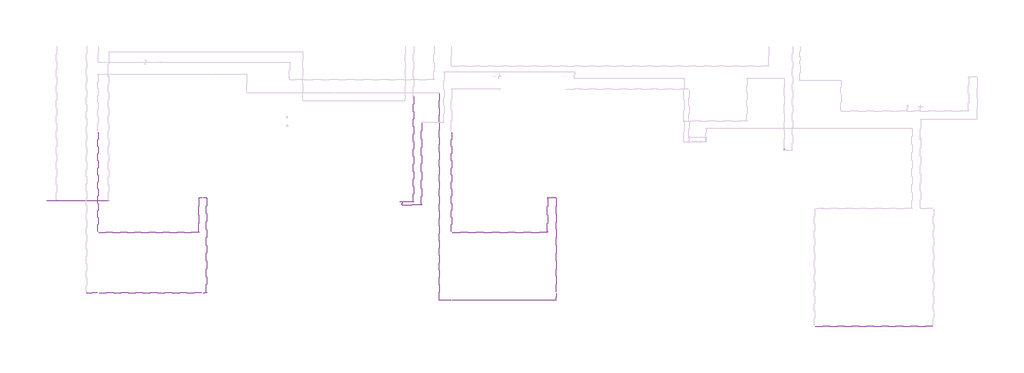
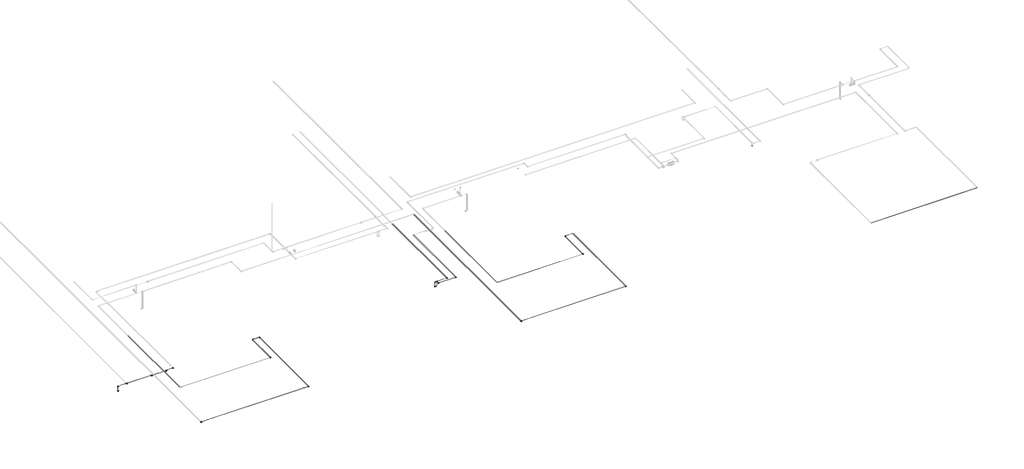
# One storey, part 1 of 6: 36 cable carrier segments, 22 cable carrier fittings, 1 alarm.
"""IFC4 building model written with IfcOpenShell, lengths in millimetres."""

from ifc_helpers import new_model, si_unit, point, frame, frame_2d, origin, place, context, project, spatial, circle_curve, trimmed, segment, composite_curve, outline, extrude, transform, mapped, element, save
from ifc_brep_helpers import plane_surface, cylinder_surface, advanced_brep
from components import alarm_a2247946, cable_carrier_fitting_69f1a801, cable_carrier_fitting_8122f9af, cable_carrier_fitting_8fd13dfc

model = new_model("IFC4")

# Units and contexts
model_context = context("Model", 3, world=origin())
ifc_project = project(units=[si_unit("LENGTHUNIT", "METRE", prefix="MILLI")], contexts=[model_context])

# Site, building, storey
site = spatial("IfcSite", under=ifc_project)
building = spatial("IfcBuilding", under=site)
storey = spatial("IfcBuildingStorey", under=building, Name="Подвальный этаж", Elevation=-3000.0)

# Alarm
placement = place(None, origin())
alarm_shape = alarm_a2247946(model_context)
element("IfcAlarm", 1, ObjectType="RBZ_ИзоляторШлейфа_Рубеж_ИЗ-1_прот.R3(плоскость) : ИЗ-1 прот.R3", at=placement, inside=storey, context=model_context, shape_type="MappedRepresentation", body=[
    mapped(alarm_shape, transform((-13842.3240021, -9395.3629895, -299.95), x_axis=(1.0, 0.0, 0.0), y_axis=(0.0, 1.0, 0.0), z_axis=(0.0, 0.0, 1.0))),
])

# Cable carrier fittings
cable_carrier_fitting_shape = cable_carrier_fitting_69f1a801(model_context)
element("IfcCableCarrierFitting", 2, ObjectType="ADSK_Поворот_Минимальный размер : Неспецифицируемый", at=placement, inside=storey, context=model_context, shape_type="MappedRepresentation", body=[
    mapped(cable_carrier_fitting_shape, transform((-7218.8240021, -3105.3629895, -310.7), x_axis=(-1.0, 0.0, 0.0), y_axis=(0.0, -1.0, 0.0), z_axis=(0.0, 0.0, 1.0))),
])
element("IfcCableCarrierFitting", 3, ObjectType="ADSK_Поворот_Минимальный размер : Неспецифицируемый", at=placement, inside=storey, context=model_context, shape_type="MappedRepresentation", body=[
    mapped(cable_carrier_fitting_shape, transform((-6672.3240021, -9395.3629895, -310.7), x_axis=(1.0, 0.0, 0.0), y_axis=(0.0, 1.0, 0.0), z_axis=(0.0, 0.0, 1.0))),
])
element("IfcCableCarrierFitting", 4, ObjectType="ADSK_Поворот_Минимальный размер : Неспецифицируемый", at=placement, inside=storey, context=model_context, shape_type="MappedRepresentation", body=[
    mapped(cable_carrier_fitting_shape, transform((-7218.8240021, -5237.8003421, -310.7), x_axis=(1.0, 0.0, 0.0), y_axis=(0.0, 1.0, 0.0), z_axis=(0.0, 0.0, 1.0))),
])
element("IfcCableCarrierFitting", 5, ObjectType="ADSK_Поворот_Минимальный размер : Неспецифицируемый", at=placement, inside=storey, context=model_context, shape_type="MappedRepresentation", body=[
    mapped(cable_carrier_fitting_shape, transform((-28574.8240021, -5237.8003421, -310.7), x_axis=(1.0, 0.0, 0.0), y_axis=(0.0, 1.0, 0.0), z_axis=(0.0, 0.0, 1.0))),
])
element("IfcCableCarrierFitting", 6, ObjectType="ADSK_Поворот_Минимальный размер : Неспецифицируемый", at=placement, inside=storey, context=model_context, shape_type="MappedRepresentation", body=[
    mapped(cable_carrier_fitting_shape, transform((-28574.8240021, -3105.3629895, -310.7), x_axis=(-1.0, 0.0, 0.0), y_axis=(0.0, -1.0, 0.0), z_axis=(0.0, 0.0, 1.0))),
])
element("IfcCableCarrierFitting", 7, ObjectType="ADSK_Поворот_Минимальный размер : Неспецифицируемый", at=placement, inside=storey, context=model_context, shape_type="MappedRepresentation", body=[
    mapped(cable_carrier_fitting_shape, transform((-28102.3240021, -3105.3629895, -310.7), x_axis=(0.0, 1.0, 0.0), y_axis=(-1.0, 0.0, 0.0), z_axis=(0.0, 0.0, 1.0))),
])
element("IfcCableCarrierFitting", 8, ObjectType="ADSK_Поворот_Минимальный размер : Неспецифицируемый", at=placement, inside=storey, context=model_context, shape_type="MappedRepresentation", body=[
    mapped(cable_carrier_fitting_shape, transform((-28102.3240021, -8945.3629895, -310.7), x_axis=(1.0, 0.0, 0.0), y_axis=(0.0, 1.0, 0.0), z_axis=(0.0, 0.0, 1.0))),
])
element("IfcCableCarrierFitting", 9, ObjectType="ADSK_Поворот_Минимальный размер : Неспецифицируемый", at=placement, inside=storey, context=model_context, shape_type="MappedRepresentation", body=[
    mapped(cable_carrier_fitting_shape, transform((-35461.3240021, -8945.3629895, -310.6999979), x_axis=(0.0, -1.0, 0.0), y_axis=(1.0, 0.0, 0.0), z_axis=(0.0, 0.0, 1.0))),
])
element("IfcCableCarrierFitting", 10, ObjectType="ADSK_Поворот_Минимальный размер : Неспецифицируемый", at=placement, inside=storey, context=model_context, shape_type="MappedRepresentation", body=[
    mapped(cable_carrier_fitting_shape, transform((-37889.5238077, -3292.8629895, -655.9740066), x_axis=(-1.0, 0.0, 0.0), y_axis=(0.0, 0.0, 1.0), z_axis=(0.0, 1.0, 0.0))),
])
element("IfcCableCarrierFitting", 11, ObjectType="ADSK_Поворот_Минимальный размер : Неспецифицируемый", at=placement, inside=storey, context=model_context, shape_type="MappedRepresentation", body=[
    mapped(cable_carrier_fitting_shape, transform((-37889.5238077, -3292.8629895, -310.7), x_axis=(0.0, 0.0, 1.0), y_axis=(1.0, 0.0, 0.0), z_axis=(0.0, 1.0, 0.0))),
])
element("IfcCableCarrierFitting", 12, ObjectType="ADSK_Поворот_Минимальный размер : Неспецифицируемый", at=placement, inside=storey, context=model_context, shape_type="MappedRepresentation", body=[
    mapped(cable_carrier_fitting_shape, transform((-34102.3240021, -3292.8629895, -310.7), x_axis=(1.0, 0.0, 0.0), y_axis=(0.0, 1.0, 0.0), z_axis=(0.0, 0.0, 1.0))),
])
element("IfcCableCarrierFitting", 13, ObjectType="ADSK_Поворот_Минимальный размер : Неспецифицируемый", at=placement, inside=storey, context=model_context, shape_type="MappedRepresentation", body=[
    mapped(cable_carrier_fitting_shape, transform((-16121.6725748, -3355.3629895, -310.7), x_axis=(0.0, 0.0, 1.0), y_axis=(0.0, -1.0, 0.0), z_axis=(1.0, 0.0, 0.0))),
])
element("IfcCableCarrierFitting", 14, ObjectType="ADSK_Поворот_Минимальный размер : Неспецифицируемый", at=placement, inside=storey, context=model_context, shape_type="MappedRepresentation", body=[
    mapped(cable_carrier_fitting_shape, transform((-16121.6725748, -3555.3629895, -310.7), x_axis=(0.0, -1.0, 0.0), y_axis=(1.0, 0.0, 0.0), z_axis=(0.0, 0.0, 1.0))),
])
element("IfcCableCarrierFitting", 15, ObjectType="ADSK_Поворот_Минимальный размер : Неспецифицируемый", at=placement, inside=storey, context=model_context, shape_type="MappedRepresentation", body=[
    mapped(cable_carrier_fitting_shape, transform((-14921.6240021, -3555.3629895, -310.7), x_axis=(1.0, 0.0, 0.0), y_axis=(0.0, 1.0, 0.0), z_axis=(0.0, 0.0, 1.0))),
])
element("IfcCableCarrierFitting", 16, ObjectType="ADSK_Поворот_Минимальный размер : Неспецифицируемый", at=placement, inside=storey, context=model_context, shape_type="MappedRepresentation", body=[
    mapped(cable_carrier_fitting_shape, transform((-16249.5238077, -3355.3629895, -655.9740066), x_axis=(-1.0, 0.0, 0.0), y_axis=(0.0, 0.0, 1.0), z_axis=(0.0, 1.0, 0.0))),
])
element("IfcCableCarrierFitting", 17, ObjectType="ADSK_Поворот_Минимальный размер : Неспецифицируемый", at=placement, inside=storey, context=model_context, shape_type="MappedRepresentation", body=[
    mapped(cable_carrier_fitting_shape, transform((-16249.5238077, -3355.3629895, -310.7), x_axis=(0.0, 0.0, 1.0), y_axis=(1.0, 0.0, 0.0), z_axis=(0.0, 1.0, 0.0))),
])
element("IfcCableCarrierFitting", 18, ObjectType="ADSK_Поворот_Минимальный размер : Неспецифицируемый", at=placement, inside=storey, context=model_context, shape_type="MappedRepresentation", body=[
    mapped(cable_carrier_fitting_shape, transform((-15421.6240021, -3355.3629895, -310.7), x_axis=(1.0, 0.0, 0.0), y_axis=(0.0, 1.0, 0.0), z_axis=(0.0, 0.0, 1.0))),
])
cable_carrier_fitting_2_shape = cable_carrier_fitting_8122f9af(model_context)
element("IfcCableCarrierFitting", 19, ObjectType="ADSK_Поворот_Минимальный размер : Неспецифицируемый", at=placement, inside=storey, context=model_context, shape_type="MappedRepresentation", body=[
    mapped(cable_carrier_fitting_2_shape, transform((-35602.3240021, -3292.8629895, -310.7), x_axis=(1.0, 0.0, 0.0), y_axis=(0.0, 0.0, -1.0), z_axis=(0.0, 1.0, 0.0))),
])
element("IfcCableCarrierFitting", 20, ObjectType="ADSK_Поворот_Минимальный размер : Неспецифицируемый", at=placement, inside=storey, context=model_context, shape_type="MappedRepresentation", body=[
    mapped(cable_carrier_fitting_2_shape, transform((-35563.0240021, -3292.8629895, -350.0), x_axis=(0.7071067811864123, 0.0, -0.7071067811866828), y_axis=(0.7071067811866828, 0.0, 0.7071067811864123), z_axis=(0.0, -1.0, 0.0))),
])
element("IfcCableCarrierFitting", 21, ObjectType="ADSK_Поворот_Минимальный размер : Неспецифицируемый", at=placement, inside=storey, context=model_context, shape_type="MappedRepresentation", body=[
    mapped(cable_carrier_fitting_2_shape, transform((-34602.3240021, -3292.8629895, -350.0), x_axis=(1.0, 0.0, 0.0), y_axis=(0.0, 0.0, 1.0), z_axis=(0.0, -1.0, 0.0))),
])
element("IfcCableCarrierFitting", 22, ObjectType="ADSK_Поворот_Минимальный размер : Неспецифицируемый", at=placement, inside=storey, context=model_context, shape_type="MappedRepresentation", body=[
    mapped(cable_carrier_fitting_2_shape, transform((-34563.0240021, -3292.8629895, -310.7), x_axis=(0.7071067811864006, 0.0, 0.7071067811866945), y_axis=(0.7071067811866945, 0.0, -0.7071067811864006), z_axis=(0.0, 1.0, 0.0))),
])
cable_carrier_fitting_3_shape = cable_carrier_fitting_8fd13dfc(model_context)
element("IfcCableCarrierFitting", 23, ObjectType="ADSK_Тройник : ПВХ", at=placement, inside=storey, context=model_context, shape_type="MappedRepresentation", body=[
    mapped(cable_carrier_fitting_3_shape, transform((-37292.3240021, -3292.8629895, -310.7), x_axis=(-1.0, 0.0, 0.0), y_axis=(0.0, -1.0, 0.0), z_axis=(0.0, 0.0, 1.0))),
])

# Cable carrier segments
element("IfcCableCarrierSegment", 24, ObjectType="Гофрированная труба", at=placement, inside=storey, context=model_context, shape_type="SweptSolid", body=[
    extrude(outline(composite_curve([segment(trimmed(circle_curve(frame_2d((-310.7, -34750.048085)), 10.0), [point((-310.7, -34760.048085))], [point((-320.7, -34750.048085))], False, "CARTESIAN"), True, "CONTINUOUS"), segment(trimmed(circle_curve(frame_2d((-310.7, -34750.048085)), 10.0), [point((-320.7, -34750.048085))], [point((-310.7, -34740.048085))], False, "CARTESIAN"), True, "CONTINUOUS"), segment(trimmed(circle_curve(frame_2d((-310.7, -34750.048085)), 10.0), [point((-310.7, -34740.048085))], [point((-300.7, -34750.048085))], False, "CARTESIAN"), True, "CONTINUOUS"), segment(trimmed(circle_curve(frame_2d((-310.7, -34750.048085)), 10.0), [point((-300.7, -34750.048085))], [point((-310.7, -34760.048085))], False, "CARTESIAN"), True, "CONTINUOUS")], self_intersect=False)), frame((0.0, -5191.3003421, 0.0), z_axis=(0.0, 1.0, 0.0), x_axis=(0.0, 0.0, 1.0)), (0.0, 0.0, 1.0), 6089.4373527),
])
element("IfcCableCarrierSegment", 25, ObjectType="Гофрированная труба", at=placement, inside=storey, context=model_context, shape_type="SweptSolid", body=[
    extrude(outline(composite_curve([segment(trimmed(circle_curve(frame_2d((-5237.8003421, -310.7)), 10.0), [point((-5227.8003421, -310.7))], [point((-5237.8003421, -320.7))], False, "CARTESIAN"), True, "CONTINUOUS"), segment(trimmed(circle_curve(frame_2d((-5237.8003421, -310.7)), 10.0), [point((-5237.8003421, -320.7))], [point((-5247.8003421, -310.7))], False, "CARTESIAN"), True, "CONTINUOUS"), segment(trimmed(circle_curve(frame_2d((-5237.8003421, -310.7)), 10.0), [point((-5247.8003421, -310.7))], [point((-5237.8003421, -300.7))], False, "CARTESIAN"), True, "CONTINUOUS"), segment(trimmed(circle_curve(frame_2d((-5237.8003421, -310.7)), 10.0), [point((-5237.8003421, -300.7))], [point((-5227.8003421, -310.7))], False, "CARTESIAN"), True, "CONTINUOUS")], self_intersect=False)), frame((-34703.548085, 0.0, 0.0), z_axis=(1.0, 0.0, 0.0), x_axis=(0.0, 1.0, 0.0)), (0.0, 0.0, 1.0), 6107.7240829),
])
element("IfcCableCarrierSegment", 26, ObjectType="Гофрированная труба", at=placement, inside=storey, context=model_context, shape_type="SweptSolid", body=[
    extrude(outline(composite_curve([segment(trimmed(circle_curve(frame_2d((-310.7, -28574.8240021)), 10.0), [point((-310.7, -28564.8240021))], [point((-300.7, -28574.8240021))], False, "CARTESIAN"), True, "CONTINUOUS"), segment(trimmed(circle_curve(frame_2d((-310.7, -28574.8240021)), 10.0), [point((-300.7, -28574.8240021))], [point((-310.7, -28584.8240021))], False, "CARTESIAN"), True, "CONTINUOUS"), segment(trimmed(circle_curve(frame_2d((-310.7, -28574.8240021)), 10.0), [point((-310.7, -28584.8240021))], [point((-320.7, -28574.8240021))], False, "CARTESIAN"), True, "CONTINUOUS"), segment(trimmed(circle_curve(frame_2d((-310.7, -28574.8240021)), 10.0), [point((-320.7, -28574.8240021))], [point((-310.7, -28564.8240021))], False, "CARTESIAN"), True, "CONTINUOUS")], self_intersect=False)), frame((0.0, -5216.8003421, 0.0), z_axis=(0.0, 1.0, 0.0), x_axis=(0.0, 0.0, 1.0)), (0.0, 0.0, 1.0), 2090.4373527),
])
element("IfcCableCarrierSegment", 27, ObjectType="Гофрированная труба", at=placement, inside=storey, context=model_context, shape_type="SweptSolid", body=[
    extrude(outline(composite_curve([segment(trimmed(circle_curve(frame_2d((-3105.3629895, -310.7)), 10.0), [point((-3115.3629895, -310.7))], [point((-3105.3629895, -300.7))], False, "CARTESIAN"), True, "CONTINUOUS"), segment(trimmed(circle_curve(frame_2d((-3105.3629895, -310.7)), 10.0), [point((-3105.3629895, -300.7))], [point((-3095.3629895, -310.7))], False, "CARTESIAN"), True, "CONTINUOUS"), segment(trimmed(circle_curve(frame_2d((-3105.3629895, -310.7)), 10.0), [point((-3095.3629895, -310.7))], [point((-3105.3629895, -320.7))], False, "CARTESIAN"), True, "CONTINUOUS"), segment(trimmed(circle_curve(frame_2d((-3105.3629895, -310.7)), 10.0), [point((-3105.3629895, -320.7))], [point((-3115.3629895, -310.7))], False, "CARTESIAN"), True, "CONTINUOUS")], self_intersect=False)), frame((-28553.8240021, 0.0, 0.0), z_axis=(1.0, 0.0, 0.0), x_axis=(0.0, 1.0, 0.0)), (0.0, 0.0, 1.0), 155.0),
])
element("IfcCableCarrierSegment", 28, ObjectType="Гофрированная труба", at=placement, inside=storey, context=model_context, shape_type="SweptSolid", body=[
    extrude(outline(composite_curve([segment(trimmed(circle_curve(frame_2d((-3105.3629895, -310.7)), 10.0), [point((-3095.3629895, -310.7))], [point((-3105.3629895, -320.7))], False, "CARTESIAN"), True, "CONTINUOUS"), segment(trimmed(circle_curve(frame_2d((-3105.3629895, -310.7)), 10.0), [point((-3105.3629895, -320.7))], [point((-3115.3629895, -310.7))], False, "CARTESIAN"), True, "CONTINUOUS"), segment(trimmed(circle_curve(frame_2d((-3105.3629895, -310.7)), 10.0), [point((-3115.3629895, -310.7))], [point((-3105.3629895, -300.7))], False, "CARTESIAN"), True, "CONTINUOUS"), segment(trimmed(circle_curve(frame_2d((-3105.3629895, -310.7)), 10.0), [point((-3105.3629895, -300.7))], [point((-3095.3629895, -310.7))], False, "CARTESIAN"), True, "CONTINUOUS")], self_intersect=False)), frame((-28305.8240021, 0.0, 0.0), z_axis=(1.0, 0.0, 0.0), x_axis=(0.0, 1.0, 0.0)), (0.0, 0.0, 1.0), 182.5),
])
element("IfcCableCarrierSegment", 29, ObjectType="Гофрированная труба", at=placement, inside=storey, context=model_context, shape_type="SweptSolid", body=[
    extrude(outline(composite_curve([segment(trimmed(circle_curve(frame_2d((-310.7, -28102.3240021)), 10.0), [point((-310.7, -28092.3240021))], [point((-300.7, -28102.3240021))], False, "CARTESIAN"), True, "CONTINUOUS"), segment(trimmed(circle_curve(frame_2d((-310.7, -28102.3240021)), 10.0), [point((-300.7, -28102.3240021))], [point((-310.7, -28112.3240021))], False, "CARTESIAN"), True, "CONTINUOUS"), segment(trimmed(circle_curve(frame_2d((-310.7, -28102.3240021)), 10.0), [point((-310.7, -28112.3240021))], [point((-320.7, -28102.3240021))], False, "CARTESIAN"), True, "CONTINUOUS"), segment(trimmed(circle_curve(frame_2d((-310.7, -28102.3240021)), 10.0), [point((-320.7, -28102.3240021))], [point((-310.7, -28092.3240021))], False, "CARTESIAN"), True, "CONTINUOUS")], self_intersect=False)), frame((0.0, -8924.3629895, 0.0), z_axis=(0.0, 1.0, 0.0), x_axis=(0.0, 0.0, 1.0)), (0.0, 0.0, 1.0), 5798.0),
])
element("IfcCableCarrierSegment", 30, ObjectType="Гофрированная труба", at=placement, inside=storey, context=model_context, shape_type="SweptSolid", body=[
    extrude(outline(composite_curve([segment(trimmed(circle_curve(frame_2d((-8945.3629895, -310.7)), 10.0), [point((-8935.3629895, -310.7))], [point((-8945.3629895, -320.7))], False, "CARTESIAN"), True, "CONTINUOUS"), segment(trimmed(circle_curve(frame_2d((-8945.3629895, -310.7)), 10.0), [point((-8945.3629895, -320.7))], [point((-8955.3629895, -310.7))], False, "CARTESIAN"), True, "CONTINUOUS"), segment(trimmed(circle_curve(frame_2d((-8945.3629895, -310.7)), 10.0), [point((-8955.3629895, -310.7))], [point((-8945.3629895, -300.7))], False, "CARTESIAN"), True, "CONTINUOUS"), segment(trimmed(circle_curve(frame_2d((-8945.3629895, -310.7)), 10.0), [point((-8945.3629895, -300.7))], [point((-8935.3629895, -310.7))], False, "CARTESIAN"), True, "CONTINUOUS")], self_intersect=False)), frame((-28305.8240021, 0.0, 0.0), z_axis=(1.0, 0.0, 0.0), x_axis=(0.0, 1.0, 0.0)), (0.0, 0.0, 1.0), 182.5),
])
element("IfcCableCarrierSegment", 31, ObjectType="Гофрированная труба", at=placement, inside=storey, context=model_context, shape_type="SweptSolid", body=[
    extrude(outline(composite_curve([segment(trimmed(circle_curve(frame_2d((-8945.3629895, -310.7)), 10.0), [point((-8935.3629895, -310.7))], [point((-8945.3629895, -320.7))], False, "CARTESIAN"), True, "CONTINUOUS"), segment(trimmed(circle_curve(frame_2d((-8945.3629895, -310.7)), 10.0), [point((-8945.3629895, -320.7))], [point((-8955.3629895, -310.7))], False, "CARTESIAN"), True, "CONTINUOUS"), segment(trimmed(circle_curve(frame_2d((-8945.3629895, -310.7)), 10.0), [point((-8955.3629895, -310.7))], [point((-8945.3629895, -300.7))], False, "CARTESIAN"), True, "CONTINUOUS"), segment(trimmed(circle_curve(frame_2d((-8945.3629895, -310.7)), 10.0), [point((-8945.3629895, -300.7))], [point((-8935.3629895, -310.7))], False, "CARTESIAN"), True, "CONTINUOUS")], self_intersect=False)), frame((-34685.8240021, 0.0, 0.0), z_axis=(1.0, 0.0, 0.0), x_axis=(0.0, 1.0, 0.0)), (0.0, 0.0, 1.0), 6287.0),
])
element("IfcCableCarrierSegment", 32, ObjectType="Гофрированная труба", at=placement, inside=storey, context=model_context, shape_type="AdvancedBrep", body=[
    advanced_brep(
    [(-35440.3240021, -8955.3629895, -310.6999979), (-35440.3240021, -8945.3629895, -300.6999979), (-35440.3240021, -8935.3629895, -310.6999979), (-35440.3240021, -8945.3629895, -320.6999979), (-34778.8240021, -8955.3629895, -310.7), (-34778.8240021, -8945.3629895, -320.7), (-34778.8240021, -8935.3629895, -310.7), (-34778.8240021, -8945.3629895, -300.7)],
    [
        (0, 1, circle_curve(frame((-35440.3240021, -8945.3629895, -310.6999979), z_axis=(-1.0, 0.0, 0.0), x_axis=(0.0, -1.0, 0.0)), 10.0)),
        (1, 2, circle_curve(frame((-35440.3240021, -8945.3629895, -310.6999979), z_axis=(-1.0, 0.0, 0.0), x_axis=(0.0, -1.0, 0.0)), 10.0)),
        (2, 3, circle_curve(frame((-35440.3240021, -8945.3629895, -310.6999979), z_axis=(-1.0, 0.0, 0.0), x_axis=(0.0, -1.0, 0.0)), 10.0)),
        (3, 0, circle_curve(frame((-35440.3240021, -8945.3629895, -310.6999979), z_axis=(-1.0, 0.0, 0.0), x_axis=(0.0, -1.0, 0.0)), 10.0)),
        (4, 5, circle_curve(frame((-34778.8240021, -8945.3629895, -310.6999979), z_axis=(1.0, 0.0, 0.0), x_axis=(0.0, -1.0, 0.0)), 10.0)),
        (5, 6, circle_curve(frame((-34778.8240021, -8945.3629895, -310.6999979), z_axis=(1.0, 0.0, 0.0), x_axis=(0.0, -1.0, 0.0)), 10.0000021)),
        (6, 7, circle_curve(frame((-34778.8240021, -8945.3629895, -310.6999979), z_axis=(1.0, 0.0, 0.0), x_axis=(0.0, -1.0, 0.0)), 10.0)),
        (7, 4, circle_curve(frame((-34778.8240021, -8945.3629895, -310.6999979), z_axis=(1.0, 0.0, 0.0), x_axis=(0.0, -1.0, 0.0)), 9.9999979)),
        (0, 4),
        (7, 1),
        (6, 2),
        (5, 3),
    ],
    [
        plane_surface(frame((-35440.3240021, -8945.3629895, -320.6999979), z_axis=(-1.0, 0.0, 3.1717178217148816e-09), x_axis=(0.0, 1.0, 0.0))),
        plane_surface(frame((-34778.8240021, -8945.3629895, -320.7), z_axis=(1.0, 0.0, -3.1717178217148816e-09), x_axis=(0.0, 1.0, 0.0))),
        cylinder_surface(frame((-35440.3240021, -8945.3629895, -310.6999979), z_axis=(-1.0, 0.0, 0.0), x_axis=(0.0, -1.0, 0.0)), 10.0),
    ],
    [
        (0, [[1, 2, 3, 4]]),
        (1, [[5, 6, 7, 8]]),
        (2, [[-1, 9, -8, 10]]),
        (2, [[-2, -10, -7, 11]]),
        (2, [[-3, -11, -6, 12]]),
        (2, [[-4, -12, -5, -9]]),
    ],
),
])
element("IfcCableCarrierSegment", 33, ObjectType="Гофрированная труба", at=placement, inside=storey, context=model_context, shape_type="SweptSolid", body=[
    extrude(outline(composite_curve([segment(trimmed(circle_curve(frame_2d((-310.7, -13842.3240021)), 10.0), [point((-310.7, -13832.3240021))], [point((-300.7, -13842.3240021))], False, "CARTESIAN"), True, "CONTINUOUS"), segment(trimmed(circle_curve(frame_2d((-310.7, -13842.3240021)), 10.0), [point((-300.7, -13842.3240021))], [point((-310.7, -13852.3240021))], False, "CARTESIAN"), True, "CONTINUOUS"), segment(trimmed(circle_curve(frame_2d((-310.7, -13842.3240021)), 10.0), [point((-310.7, -13852.3240021))], [point((-320.7, -13842.3240021))], False, "CARTESIAN"), True, "CONTINUOUS"), segment(trimmed(circle_curve(frame_2d((-310.7, -13842.3240021)), 10.0), [point((-320.7, -13842.3240021))], [point((-310.7, -13832.3240021))], False, "CARTESIAN"), True, "CONTINUOUS")], self_intersect=False)), frame((0.0, -9369.3629895, 0.0), z_axis=(0.0, 1.0, 0.0), x_axis=(0.0, 0.0, 1.0)), (0.0, 0.0, 1.0), 12673.0),
])
element("IfcCableCarrierSegment", 34, ObjectType="Гофрированная труба", at=placement, inside=storey, context=model_context, shape_type="SweptSolid", body=[
    extrude(outline(composite_curve([segment(trimmed(circle_curve(frame_2d((-9395.3629895, -310.7)), 10.0), [point((-9385.3629895, -310.7))], [point((-9395.3629895, -320.7))], False, "CARTESIAN"), True, "CONTINUOUS"), segment(trimmed(circle_curve(frame_2d((-9395.3629895, -310.7)), 10.0), [point((-9395.3629895, -320.7))], [point((-9405.3629895, -310.7))], False, "CARTESIAN"), True, "CONTINUOUS"), segment(trimmed(circle_curve(frame_2d((-9395.3629895, -310.7)), 10.0), [point((-9405.3629895, -310.7))], [point((-9395.3629895, -300.7))], False, "CARTESIAN"), True, "CONTINUOUS"), segment(trimmed(circle_curve(frame_2d((-9395.3629895, -310.7)), 10.0), [point((-9395.3629895, -300.7))], [point((-9385.3629895, -310.7))], False, "CARTESIAN"), True, "CONTINUOUS")], self_intersect=False)), frame((-13816.3240021, 0.0, 0.0), z_axis=(1.0, 0.0, 0.0), x_axis=(0.0, 1.0, 0.0)), (0.0, 0.0, 1.0), 677.5),
])
element("IfcCableCarrierSegment", 35, ObjectType="Гофрированная труба", at=placement, inside=storey, context=model_context, shape_type="SweptSolid", body=[
    extrude(outline(composite_curve([segment(trimmed(circle_curve(frame_2d((-9395.3629895, -310.7)), 10.0), [point((-9385.3629895, -310.7))], [point((-9395.3629895, -320.7))], False, "CARTESIAN"), True, "CONTINUOUS"), segment(trimmed(circle_curve(frame_2d((-9395.3629895, -310.7)), 10.0), [point((-9395.3629895, -320.7))], [point((-9405.3629895, -310.7))], False, "CARTESIAN"), True, "CONTINUOUS"), segment(trimmed(circle_curve(frame_2d((-9395.3629895, -310.7)), 10.0), [point((-9405.3629895, -310.7))], [point((-9395.3629895, -300.7))], False, "CARTESIAN"), True, "CONTINUOUS"), segment(trimmed(circle_curve(frame_2d((-9395.3629895, -310.7)), 10.0), [point((-9395.3629895, -300.7))], [point((-9385.3629895, -310.7))], False, "CARTESIAN"), True, "CONTINUOUS")], self_intersect=False)), frame((-13045.8240021, 0.0, 0.0), z_axis=(1.0, 0.0, 0.0), x_axis=(0.0, 1.0, 0.0)), (0.0, 0.0, 1.0), 6352.5),
])
element("IfcCableCarrierSegment", 36, ObjectType="Гофрированная труба", at=placement, inside=storey, context=model_context, shape_type="SweptSolid", body=[
    extrude(outline(composite_curve([segment(trimmed(circle_curve(frame_2d((-310.7, -6672.3240021)), 10.0), [point((-310.7, -6662.3240021))], [point((-300.7, -6672.3240021))], False, "CARTESIAN"), True, "CONTINUOUS"), segment(trimmed(circle_curve(frame_2d((-310.7, -6672.3240021)), 10.0), [point((-300.7, -6672.3240021))], [point((-310.7, -6682.3240021))], False, "CARTESIAN"), True, "CONTINUOUS"), segment(trimmed(circle_curve(frame_2d((-310.7, -6672.3240021)), 10.0), [point((-310.7, -6682.3240021))], [point((-320.7, -6672.3240021))], False, "CARTESIAN"), True, "CONTINUOUS"), segment(trimmed(circle_curve(frame_2d((-310.7, -6672.3240021)), 10.0), [point((-320.7, -6672.3240021))], [point((-310.7, -6662.3240021))], False, "CARTESIAN"), True, "CONTINUOUS")], self_intersect=False)), frame((0.0, -9374.3629895, 0.0), z_axis=(0.0, 1.0, 0.0), x_axis=(0.0, 0.0, 1.0)), (0.0, 0.0, 1.0), 382.5),
])
element("IfcCableCarrierSegment", 37, ObjectType="Гофрированная труба", at=placement, inside=storey, context=model_context, shape_type="SweptSolid", body=[
    extrude(outline(composite_curve([segment(trimmed(circle_curve(frame_2d((-310.7, -6672.3240021)), 10.0), [point((-310.7, -6682.3240021))], [point((-320.7, -6672.3240021))], False, "CARTESIAN"), True, "CONTINUOUS"), segment(trimmed(circle_curve(frame_2d((-310.7, -6672.3240021)), 10.0), [point((-320.7, -6672.3240021))], [point((-310.7, -6662.3240021))], False, "CARTESIAN"), True, "CONTINUOUS"), segment(trimmed(circle_curve(frame_2d((-310.7, -6672.3240021)), 10.0), [point((-310.7, -6662.3240021))], [point((-300.7, -6672.3240021))], False, "CARTESIAN"), True, "CONTINUOUS"), segment(trimmed(circle_curve(frame_2d((-310.7, -6672.3240021)), 10.0), [point((-300.7, -6672.3240021))], [point((-310.7, -6682.3240021))], False, "CARTESIAN"), True, "CONTINUOUS")], self_intersect=False)), frame((0.0, -8898.8629895, 0.0), z_axis=(0.0, 1.0, 0.0), x_axis=(0.0, 0.0, 1.0)), (0.0, 0.0, 1.0), 5747.0),
])
element("IfcCableCarrierSegment", 38, ObjectType="Гофрированная труба", at=placement, inside=storey, context=model_context, shape_type="SweptSolid", body=[
    extrude(outline(composite_curve([segment(trimmed(circle_curve(frame_2d((-3105.3629895, -310.7)), 10.0), [point((-3115.3629895, -310.7))], [point((-3105.3629895, -300.7))], False, "CARTESIAN"), True, "CONTINUOUS"), segment(trimmed(circle_curve(frame_2d((-3105.3629895, -310.7)), 10.0), [point((-3105.3629895, -300.7))], [point((-3095.3629895, -310.7))], False, "CARTESIAN"), True, "CONTINUOUS"), segment(trimmed(circle_curve(frame_2d((-3105.3629895, -310.7)), 10.0), [point((-3095.3629895, -310.7))], [point((-3105.3629895, -320.7))], False, "CARTESIAN"), True, "CONTINUOUS"), segment(trimmed(circle_curve(frame_2d((-3105.3629895, -310.7)), 10.0), [point((-3105.3629895, -320.7))], [point((-3115.3629895, -310.7))], False, "CARTESIAN"), True, "CONTINUOUS")], self_intersect=False)), frame((-7197.8240021, 0.0, 0.0), z_axis=(1.0, 0.0, 0.0), x_axis=(0.0, 1.0, 0.0)), (0.0, 0.0, 1.0), 479.0),
])
element("IfcCableCarrierSegment", 39, ObjectType="Гофрированная труба", at=placement, inside=storey, context=model_context, shape_type="SweptSolid", body=[
    extrude(outline(composite_curve([segment(trimmed(circle_curve(frame_2d((-310.7, -7218.8240021)), 10.0), [point((-310.7, -7208.8240021))], [point((-300.7, -7218.8240021))], False, "CARTESIAN"), True, "CONTINUOUS"), segment(trimmed(circle_curve(frame_2d((-310.7, -7218.8240021)), 10.0), [point((-300.7, -7218.8240021))], [point((-310.7, -7228.8240021))], False, "CARTESIAN"), True, "CONTINUOUS"), segment(trimmed(circle_curve(frame_2d((-310.7, -7218.8240021)), 10.0), [point((-310.7, -7228.8240021))], [point((-320.7, -7218.8240021))], False, "CARTESIAN"), True, "CONTINUOUS"), segment(trimmed(circle_curve(frame_2d((-310.7, -7218.8240021)), 10.0), [point((-320.7, -7218.8240021))], [point((-310.7, -7208.8240021))], False, "CARTESIAN"), True, "CONTINUOUS")], self_intersect=False)), frame((0.0, -5216.8003421, 0.0), z_axis=(0.0, 1.0, 0.0), x_axis=(0.0, 0.0, 1.0)), (0.0, 0.0, 1.0), 2090.4373527),
])
element("IfcCableCarrierSegment", 40, ObjectType="Гофрированная труба", at=placement, inside=storey, context=model_context, shape_type="SweptSolid", body=[
    extrude(outline(composite_curve([segment(trimmed(circle_curve(frame_2d((-5237.8003421, -310.7)), 10.0), [point((-5227.8003421, -310.7))], [point((-5237.8003421, -320.7))], False, "CARTESIAN"), True, "CONTINUOUS"), segment(trimmed(circle_curve(frame_2d((-5237.8003421, -310.7)), 10.0), [point((-5237.8003421, -320.7))], [point((-5247.8003421, -310.7))], False, "CARTESIAN"), True, "CONTINUOUS"), segment(trimmed(circle_curve(frame_2d((-5237.8003421, -310.7)), 10.0), [point((-5247.8003421, -310.7))], [point((-5237.8003421, -300.7))], False, "CARTESIAN"), True, "CONTINUOUS"), segment(trimmed(circle_curve(frame_2d((-5237.8003421, -310.7)), 10.0), [point((-5237.8003421, -300.7))], [point((-5227.8003421, -310.7))], False, "CARTESIAN"), True, "CONTINUOUS")], self_intersect=False)), frame((-13045.8240021, 0.0, 0.0), z_axis=(1.0, 0.0, 0.0), x_axis=(0.0, 1.0, 0.0)), (0.0, 0.0, 1.0), 5806.0),
])
element("IfcCableCarrierSegment", 41, ObjectType="Гофрированная труба", at=placement, inside=storey, context=model_context, shape_type="SweptSolid", body=[
    extrude(outline(composite_curve([segment(trimmed(circle_curve(frame_2d((-310.7, -13092.3240021)), 10.0), [point((-310.7, -13102.3240021))], [point((-320.7, -13092.3240021))], False, "CARTESIAN"), True, "CONTINUOUS"), segment(trimmed(circle_curve(frame_2d((-310.7, -13092.3240021)), 10.0), [point((-320.7, -13092.3240021))], [point((-310.7, -13082.3240021))], False, "CARTESIAN"), True, "CONTINUOUS"), segment(trimmed(circle_curve(frame_2d((-310.7, -13092.3240021)), 10.0), [point((-310.7, -13082.3240021))], [point((-300.7, -13092.3240021))], False, "CARTESIAN"), True, "CONTINUOUS"), segment(trimmed(circle_curve(frame_2d((-310.7, -13092.3240021)), 10.0), [point((-300.7, -13092.3240021))], [point((-310.7, -13102.3240021))], False, "CARTESIAN"), True, "CONTINUOUS")], self_intersect=False)), frame((0.0, -5191.3003421, 0.0), z_axis=(0.0, 1.0, 0.0), x_axis=(0.0, 0.0, 1.0)), (0.0, 0.0, 1.0), 6089.4373527),
])
element("IfcCableCarrierSegment", 42, ObjectType="Гофрированная труба", at=placement, inside=storey, context=model_context, shape_type="SweptSolid", body=[
    extrude(outline(composite_curve([segment(trimmed(circle_curve(frame_2d((-10995.3629895, -310.7)), 10.0), [point((-10985.3629895, -310.7))], [point((-10995.3629895, -320.7))], False, "CARTESIAN"), True, "CONTINUOUS"), segment(trimmed(circle_curve(frame_2d((-10995.3629895, -310.7)), 10.0), [point((-10995.3629895, -320.7))], [point((-11005.3629895, -310.7))], False, "CARTESIAN"), True, "CONTINUOUS"), segment(trimmed(circle_curve(frame_2d((-10995.3629895, -310.7)), 10.0), [point((-11005.3629895, -310.7))], [point((-10995.3629895, -300.7))], False, "CARTESIAN"), True, "CONTINUOUS"), segment(trimmed(circle_curve(frame_2d((-10995.3629895, -310.7)), 10.0), [point((-10995.3629895, -300.7))], [point((-10985.3629895, -310.7))], False, "CARTESIAN"), True, "CONTINUOUS")], self_intersect=False)), frame((9194.1759979, 0.0, 0.0), z_axis=(1.0, 0.0, 0.0), x_axis=(0.0, 1.0, 0.0)), (0.0, 0.0, 1.0), 7187.0),
])
element("IfcCableCarrierSegment", 43, ObjectType="Гофрированная труба", at=placement, inside=storey, context=model_context, shape_type="SweptSolid", body=[
    extrude(outline(composite_curve([segment(trimmed(circle_curve(frame_2d((-3292.8629895, -310.7)), 10.0), [point((-3302.8629895, -310.7))], [point((-3292.8629895, -300.7))], False, "CARTESIAN"), True, "CONTINUOUS"), segment(trimmed(circle_curve(frame_2d((-3292.8629895, -310.7)), 10.0), [point((-3292.8629895, -300.7))], [point((-3282.8629895, -310.7))], False, "CARTESIAN"), True, "CONTINUOUS"), segment(trimmed(circle_curve(frame_2d((-3292.8629895, -310.7)), 10.0), [point((-3282.8629895, -310.7))], [point((-3292.8629895, -320.7))], False, "CARTESIAN"), True, "CONTINUOUS"), segment(trimmed(circle_curve(frame_2d((-3292.8629895, -310.7)), 10.0), [point((-3292.8629895, -320.7))], [point((-3302.8629895, -310.7))], False, "CARTESIAN"), True, "CONTINUOUS")], self_intersect=False)), frame((-37262.3240021, 0.0, 0.0), z_axis=(1.0, 0.0, 0.0), x_axis=(0.0, 1.0, 0.0)), (0.0, 0.0, 1.0), 1650.7157288),
])
element("IfcCableCarrierSegment", 44, ObjectType="Гофрированная труба", at=placement, inside=storey, context=model_context, shape_type="SweptSolid", body=[
    extrude(outline(composite_curve([segment(trimmed(circle_curve(frame_2d((-3292.8629895, -655.9740066)), 10.0), [point((-3282.8629895, -655.9740066))], [point((-3292.8629895, -665.9740066))], False, "CARTESIAN"), True, "CONTINUOUS"), segment(trimmed(circle_curve(frame_2d((-3292.8629895, -655.9740066)), 10.0), [point((-3292.8629895, -665.9740066))], [point((-3302.8629895, -655.9740066))], False, "CARTESIAN"), True, "CONTINUOUS"), segment(trimmed(circle_curve(frame_2d((-3292.8629895, -655.9740066)), 10.0), [point((-3302.8629895, -655.9740066))], [point((-3292.8629895, -645.9740066))], False, "CARTESIAN"), True, "CONTINUOUS"), segment(trimmed(circle_curve(frame_2d((-3292.8629895, -655.9740066)), 10.0), [point((-3292.8629895, -645.9740066))], [point((-3282.8629895, -655.9740066))], False, "CARTESIAN"), True, "CONTINUOUS")], self_intersect=False)), frame((-37868.5238077, 0.0, 0.0), z_axis=(1.0, 0.0, 0.0), x_axis=(0.0, 1.0, 0.0)), (0.0, 0.0, 1.0), 76.1998056),
])
element("IfcCableCarrierSegment", 45, ObjectType="Гофрированная труба", at=placement, inside=storey, context=model_context, shape_type="SweptSolid", body=[
    extrude(outline(composite_curve([segment(trimmed(circle_curve(frame_2d((-37889.5238077, -3292.8629895)), 10.0), [point((-37899.5238077, -3292.8629895))], [point((-37889.5238077, -3282.8629895))], False, "CARTESIAN"), True, "CONTINUOUS"), segment(trimmed(circle_curve(frame_2d((-37889.5238077, -3292.8629895)), 10.0), [point((-37889.5238077, -3282.8629895))], [point((-37879.5238077, -3292.8629895))], False, "CARTESIAN"), True, "CONTINUOUS"), segment(trimmed(circle_curve(frame_2d((-37889.5238077, -3292.8629895)), 10.0), [point((-37879.5238077, -3292.8629895))], [point((-37889.5238077, -3302.8629895))], False, "CARTESIAN"), True, "CONTINUOUS"), segment(trimmed(circle_curve(frame_2d((-37889.5238077, -3292.8629895)), 10.0), [point((-37889.5238077, -3302.8629895))], [point((-37899.5238077, -3292.8629895))], False, "CARTESIAN"), True, "CONTINUOUS")], self_intersect=False)), frame((0.0, 0.0, -634.9740066), z_axis=(0.0, 0.0, 1.0), x_axis=(1.0, 0.0, 0.0)), (0.0, 0.0, 1.0), 303.2740066),
])
element("IfcCableCarrierSegment", 46, ObjectType="Гофрированная труба", at=placement, inside=storey, context=model_context, shape_type="SweptSolid", body=[
    extrude(outline(composite_curve([segment(trimmed(circle_curve(frame_2d((-3292.8629895, -310.7)), 10.0), [point((-3302.8629895, -310.7))], [point((-3292.8629895, -300.7))], False, "CARTESIAN"), True, "CONTINUOUS"), segment(trimmed(circle_curve(frame_2d((-3292.8629895, -310.7)), 10.0), [point((-3292.8629895, -300.7))], [point((-3282.8629895, -310.7))], False, "CARTESIAN"), True, "CONTINUOUS"), segment(trimmed(circle_curve(frame_2d((-3292.8629895, -310.7)), 10.0), [point((-3282.8629895, -310.7))], [point((-3292.8629895, -320.7))], False, "CARTESIAN"), True, "CONTINUOUS"), segment(trimmed(circle_curve(frame_2d((-3292.8629895, -310.7)), 10.0), [point((-3292.8629895, -320.7))], [point((-3302.8629895, -310.7))], False, "CARTESIAN"), True, "CONTINUOUS")], self_intersect=False)), frame((-37868.5238077, 0.0, 0.0), z_axis=(1.0, 0.0, 0.0), x_axis=(0.0, 1.0, 0.0)), (0.0, 0.0, 1.0), 546.1998056),
])
element("IfcCableCarrierSegment", 47, ObjectType="Гофрированная труба", at=placement, inside=storey, context=model_context, shape_type="SweptSolid", body=[
    extrude(outline(composite_curve([segment(trimmed(circle_curve(frame_2d((-3292.8629895, -350.0)), 10.0), [point((-3302.8629895, -350.0))], [point((-3292.8629895, -340.0))], False, "CARTESIAN"), True, "CONTINUOUS"), segment(trimmed(circle_curve(frame_2d((-3292.8629895, -350.0)), 10.0), [point((-3292.8629895, -340.0))], [point((-3282.8629895, -350.0))], False, "CARTESIAN"), True, "CONTINUOUS"), segment(trimmed(circle_curve(frame_2d((-3292.8629895, -350.0)), 10.0), [point((-3282.8629895, -350.0))], [point((-3292.8629895, -360.0))], False, "CARTESIAN"), True, "CONTINUOUS"), segment(trimmed(circle_curve(frame_2d((-3292.8629895, -350.0)), 10.0), [point((-3292.8629895, -360.0))], [point((-3302.8629895, -350.0))], False, "CARTESIAN"), True, "CONTINUOUS")], self_intersect=False)), frame((-35553.7397309, 0.0, 0.0), z_axis=(1.0, 0.0, 0.0), x_axis=(0.0, 1.0, 0.0)), (0.0, 0.0, 1.0), 942.1314575),
])
element("IfcCableCarrierSegment", 48, ObjectType="Гофрированная труба", at=placement, inside=storey, context=model_context, shape_type="SweptSolid", body=[
    extrude(outline(composite_curve([segment(trimmed(circle_curve(frame_2d((0.0, -10.0)), 10.0), [point((0.0, -20.0))], [point((-10.0000001, -10.0))], False, "CARTESIAN"), True, "CONTINUOUS"), segment(trimmed(circle_curve(frame_2d((0.0, -10.0)), 10.0), [point((-10.0000001, -10.0))], [point((0.0, 0.0))], False, "CARTESIAN"), True, "CONTINUOUS"), segment(trimmed(circle_curve(frame_2d((0.0, -10.0)), 10.0), [point((0.0, 0.0))], [point((10.0000001, -10.0))], False, "CARTESIAN"), True, "CONTINUOUS"), segment(trimmed(circle_curve(frame_2d((0.0, -10.0)), 10.0), [point((10.0000001, -10.0))], [point((0.0, -20.0))], False, "CARTESIAN"), True, "CONTINUOUS")], self_intersect=False)), frame((-35569.5889733, -3282.8629895, -343.4350288), z_axis=(-0.7071067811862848, 0.0, 0.7071067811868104), x_axis=(0.7071067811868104, 0.0, 0.7071067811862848)), (0.0, 0.0, 1.0), 37.0100505),
])
element("IfcCableCarrierSegment", 49, ObjectType="Гофрированная труба", at=placement, inside=storey, context=model_context, shape_type="SweptSolid", body=[
    extrude(outline(composite_curve([segment(trimmed(circle_curve(frame_2d((-3292.8629895, -310.7)), 10.0), [point((-3302.8629895, -310.7))], [point((-3292.8629895, -300.7))], False, "CARTESIAN"), True, "CONTINUOUS"), segment(trimmed(circle_curve(frame_2d((-3292.8629895, -310.7)), 10.0), [point((-3292.8629895, -300.7))], [point((-3282.8629895, -310.7))], False, "CARTESIAN"), True, "CONTINUOUS"), segment(trimmed(circle_curve(frame_2d((-3292.8629895, -310.7)), 10.0), [point((-3282.8629895, -310.7))], [point((-3292.8629895, -320.7))], False, "CARTESIAN"), True, "CONTINUOUS"), segment(trimmed(circle_curve(frame_2d((-3292.8629895, -310.7)), 10.0), [point((-3292.8629895, -320.7))], [point((-3302.8629895, -310.7))], False, "CARTESIAN"), True, "CONTINUOUS")], self_intersect=False)), frame((-34553.7397309, 0.0, 0.0), z_axis=(1.0, 0.0, 0.0), x_axis=(0.0, 1.0, 0.0)), (0.0, 0.0, 1.0), 430.4157288),
])
element("IfcCableCarrierSegment", 50, ObjectType="Гофрированная труба", at=placement, inside=storey, context=model_context, shape_type="SweptSolid", body=[
    extrude(outline(composite_curve([segment(trimmed(circle_curve(frame_2d((0.0, 10.0)), 10.0), [point((0.0, 0.0))], [point((-10.0000001, 10.0))], False, "CARTESIAN"), True, "CONTINUOUS"), segment(trimmed(circle_curve(frame_2d((0.0, 10.0)), 10.0), [point((-10.0000001, 10.0))], [point((0.0, 20.0))], False, "CARTESIAN"), True, "CONTINUOUS"), segment(trimmed(circle_curve(frame_2d((0.0, 10.0)), 10.0), [point((0.0, 20.0))], [point((10.0000001, 10.0))], False, "CARTESIAN"), True, "CONTINUOUS"), segment(trimmed(circle_curve(frame_2d((0.0, 10.0)), 10.0), [point((10.0000001, 10.0))], [point((0.0, 0.0))], False, "CARTESIAN"), True, "CONTINUOUS")], self_intersect=False)), frame((-34595.7590309, -3302.8629895, -343.4350288), z_axis=(0.7071067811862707, 0.0, 0.7071067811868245), x_axis=(0.7071067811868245, 0.0, -0.7071067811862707)), (0.0, 0.0, 1.0), 37.0100505),
])
element("IfcCableCarrierSegment", 51, ObjectType="Гофрированная труба", at=placement, inside=storey, context=model_context, shape_type="SweptSolid", body=[
    extrude(outline(composite_curve([segment(trimmed(circle_curve(frame_2d((-310.7, -16121.6725748)), 10.0), [point((-310.7, -16131.6725748))], [point((-320.7, -16121.6725748))], False, "CARTESIAN"), True, "CONTINUOUS"), segment(trimmed(circle_curve(frame_2d((-310.7, -16121.6725748)), 10.0), [point((-320.7, -16121.6725748))], [point((-310.7, -16111.6725748))], False, "CARTESIAN"), True, "CONTINUOUS"), segment(trimmed(circle_curve(frame_2d((-310.7, -16121.6725748)), 10.0), [point((-310.7, -16111.6725748))], [point((-300.7, -16121.6725748))], False, "CARTESIAN"), True, "CONTINUOUS"), segment(trimmed(circle_curve(frame_2d((-310.7, -16121.6725748)), 10.0), [point((-300.7, -16121.6725748))], [point((-310.7, -16131.6725748))], False, "CARTESIAN"), True, "CONTINUOUS")], self_intersect=False)), frame((0.0, -3534.3629895, 0.0), z_axis=(0.0, 1.0, 0.0), x_axis=(0.0, 0.0, 1.0)), (0.0, 0.0, 1.0), 158.0),
])
element("IfcCableCarrierSegment", 52, ObjectType="Гофрированная труба", at=placement, inside=storey, context=model_context, shape_type="SweptSolid", body=[
    extrude(outline(composite_curve([segment(trimmed(circle_curve(frame_2d((-16121.6725748, -3355.3629895)), 10.0), [point((-16131.6725748, -3355.3629895))], [point((-16121.6725748, -3345.3629895))], False, "CARTESIAN"), True, "CONTINUOUS"), segment(trimmed(circle_curve(frame_2d((-16121.6725748, -3355.3629895)), 10.0), [point((-16121.6725748, -3345.3629895))], [point((-16111.6725748, -3355.3629895))], False, "CARTESIAN"), True, "CONTINUOUS"), segment(trimmed(circle_curve(frame_2d((-16121.6725748, -3355.3629895)), 10.0), [point((-16111.6725748, -3355.3629895))], [point((-16121.6725748, -3365.3629895))], False, "CARTESIAN"), True, "CONTINUOUS"), segment(trimmed(circle_curve(frame_2d((-16121.6725748, -3355.3629895)), 10.0), [point((-16121.6725748, -3365.3629895))], [point((-16131.6725748, -3355.3629895))], False, "CARTESIAN"), True, "CONTINUOUS")], self_intersect=False)), frame((0.0, 0.0, -611.9740066), z_axis=(0.0, 0.0, 1.0), x_axis=(1.0, 0.0, 0.0)), (0.0, 0.0, 1.0), 280.2740066),
])
element("IfcCableCarrierSegment", 53, ObjectType="Гофрированная труба", at=placement, inside=storey, context=model_context, shape_type="SweptSolid", body=[
    extrude(outline(composite_curve([segment(trimmed(circle_curve(frame_2d((-3555.3629895, -310.7)), 10.0), [point((-3565.3629895, -310.7))], [point((-3555.3629895, -300.7))], False, "CARTESIAN"), True, "CONTINUOUS"), segment(trimmed(circle_curve(frame_2d((-3555.3629895, -310.7)), 10.0), [point((-3555.3629895, -300.7))], [point((-3545.3629895, -310.7))], False, "CARTESIAN"), True, "CONTINUOUS"), segment(trimmed(circle_curve(frame_2d((-3555.3629895, -310.7)), 10.0), [point((-3545.3629895, -310.7))], [point((-3555.3629895, -320.7))], False, "CARTESIAN"), True, "CONTINUOUS"), segment(trimmed(circle_curve(frame_2d((-3555.3629895, -310.7)), 10.0), [point((-3555.3629895, -320.7))], [point((-3565.3629895, -310.7))], False, "CARTESIAN"), True, "CONTINUOUS")], self_intersect=False)), frame((-16100.6725748, 0.0, 0.0), z_axis=(1.0, 0.0, 0.0), x_axis=(0.0, 1.0, 0.0)), (0.0, 0.0, 1.0), 1158.0485727),
])
element("IfcCableCarrierSegment", 54, ObjectType="Гофрированная труба", at=placement, inside=storey, context=model_context, shape_type="SweptSolid", body=[
    extrude(outline(composite_curve([segment(trimmed(circle_curve(frame_2d((-310.7, -14921.6240021)), 10.0), [point((-310.7, -14911.6240021))], [point((-300.7, -14921.6240021))], False, "CARTESIAN"), True, "CONTINUOUS"), segment(trimmed(circle_curve(frame_2d((-310.7, -14921.6240021)), 10.0), [point((-300.7, -14921.6240021))], [point((-310.7, -14931.6240021))], False, "CARTESIAN"), True, "CONTINUOUS"), segment(trimmed(circle_curve(frame_2d((-310.7, -14921.6240021)), 10.0), [point((-310.7, -14931.6240021))], [point((-320.7, -14921.6240021))], False, "CARTESIAN"), True, "CONTINUOUS"), segment(trimmed(circle_curve(frame_2d((-310.7, -14921.6240021)), 10.0), [point((-320.7, -14921.6240021))], [point((-310.7, -14911.6240021))], False, "CARTESIAN"), True, "CONTINUOUS")], self_intersect=False)), frame((0.0, -3534.3629895, 0.0), z_axis=(0.0, 1.0, 0.0), x_axis=(0.0, 0.0, 1.0)), (0.0, 0.0, 1.0), 5018.0),
])
element("IfcCableCarrierSegment", 55, ObjectType="Гофрированная труба", at=placement, inside=storey, context=model_context, shape_type="SweptSolid", body=[
    extrude(outline(composite_curve([segment(trimmed(circle_curve(frame_2d((-3355.3629895, -310.7)), 10.0), [point((-3365.3629895, -310.7))], [point((-3355.3629895, -300.7))], False, "CARTESIAN"), True, "CONTINUOUS"), segment(trimmed(circle_curve(frame_2d((-3355.3629895, -310.7)), 10.0), [point((-3355.3629895, -300.7))], [point((-3345.3629895, -310.7))], False, "CARTESIAN"), True, "CONTINUOUS"), segment(trimmed(circle_curve(frame_2d((-3355.3629895, -310.7)), 10.0), [point((-3345.3629895, -310.7))], [point((-3355.3629895, -320.7))], False, "CARTESIAN"), True, "CONTINUOUS"), segment(trimmed(circle_curve(frame_2d((-3355.3629895, -310.7)), 10.0), [point((-3355.3629895, -320.7))], [point((-3365.3629895, -310.7))], False, "CARTESIAN"), True, "CONTINUOUS")], self_intersect=False)), frame((-16228.5238077, 0.0, 0.0), z_axis=(1.0, 0.0, 0.0), x_axis=(0.0, 1.0, 0.0)), (0.0, 0.0, 1.0), 785.8998056),
])
element("IfcCableCarrierSegment", 56, ObjectType="Гофрированная труба", at=placement, inside=storey, context=model_context, shape_type="SweptSolid", body=[
    extrude(outline(composite_curve([segment(trimmed(circle_curve(frame_2d((-3355.3629895, -655.9740066)), 10.0), [point((-3345.3629895, -655.9740066))], [point((-3355.3629895, -665.9740066))], False, "CARTESIAN"), True, "CONTINUOUS"), segment(trimmed(circle_curve(frame_2d((-3355.3629895, -655.9740066)), 10.0), [point((-3355.3629895, -665.9740066))], [point((-3365.3629895, -655.9740066))], False, "CARTESIAN"), True, "CONTINUOUS"), segment(trimmed(circle_curve(frame_2d((-3355.3629895, -655.9740066)), 10.0), [point((-3365.3629895, -655.9740066))], [point((-3355.3629895, -645.9740066))], False, "CARTESIAN"), True, "CONTINUOUS"), segment(trimmed(circle_curve(frame_2d((-3355.3629895, -655.9740066)), 10.0), [point((-3355.3629895, -645.9740066))], [point((-3345.3629895, -655.9740066))], False, "CARTESIAN"), True, "CONTINUOUS")], self_intersect=False)), frame((-16228.5238077, 0.0, 0.0), z_axis=(1.0, 0.0, 0.0), x_axis=(0.0, 1.0, 0.0)), (0.0, 0.0, 1.0), 76.1998056),
])
element("IfcCableCarrierSegment", 57, ObjectType="Гофрированная труба", at=placement, inside=storey, context=model_context, shape_type="SweptSolid", body=[
    extrude(outline(composite_curve([segment(trimmed(circle_curve(frame_2d((-16249.5238077, -3355.3629895)), 10.0), [point((-16259.5238077, -3355.3629895))], [point((-16249.5238077, -3345.3629895))], False, "CARTESIAN"), True, "CONTINUOUS"), segment(trimmed(circle_curve(frame_2d((-16249.5238077, -3355.3629895)), 10.0), [point((-16249.5238077, -3345.3629895))], [point((-16239.5238077, -3355.3629895))], False, "CARTESIAN"), True, "CONTINUOUS"), segment(trimmed(circle_curve(frame_2d((-16249.5238077, -3355.3629895)), 10.0), [point((-16239.5238077, -3355.3629895))], [point((-16249.5238077, -3365.3629895))], False, "CARTESIAN"), True, "CONTINUOUS"), segment(trimmed(circle_curve(frame_2d((-16249.5238077, -3355.3629895)), 10.0), [point((-16249.5238077, -3365.3629895))], [point((-16259.5238077, -3355.3629895))], False, "CARTESIAN"), True, "CONTINUOUS")], self_intersect=False)), frame((0.0, 0.0, -634.9740066), z_axis=(0.0, 0.0, 1.0), x_axis=(1.0, 0.0, 0.0)), (0.0, 0.0, 1.0), 303.2740066),
])
element("IfcCableCarrierSegment", 58, ObjectType="Гофрированная труба", at=placement, inside=storey, context=model_context, shape_type="SweptSolid", body=[
    extrude(outline(composite_curve([segment(trimmed(circle_curve(frame_2d((-310.7, -15421.6240021)), 10.0), [point((-310.7, -15411.6240021))], [point((-300.7, -15421.6240021))], False, "CARTESIAN"), True, "CONTINUOUS"), segment(trimmed(circle_curve(frame_2d((-310.7, -15421.6240021)), 10.0), [point((-300.7, -15421.6240021))], [point((-310.7, -15431.6240021))], False, "CARTESIAN"), True, "CONTINUOUS"), segment(trimmed(circle_curve(frame_2d((-310.7, -15421.6240021)), 10.0), [point((-310.7, -15431.6240021))], [point((-320.7, -15421.6240021))], False, "CARTESIAN"), True, "CONTINUOUS"), segment(trimmed(circle_curve(frame_2d((-310.7, -15421.6240021)), 10.0), [point((-320.7, -15421.6240021))], [point((-310.7, -15411.6240021))], False, "CARTESIAN"), True, "CONTINUOUS")], self_intersect=False)), frame((0.0, -3334.3629895, 0.0), z_axis=(0.0, 1.0, 0.0), x_axis=(0.0, 0.0, 1.0)), (0.0, 0.0, 1.0), 6435.4157288),
])
element("IfcCableCarrierSegment", 59, ObjectType="Гофрированная труба", at=placement, inside=storey, context=model_context, shape_type="SweptSolid", body=[
    extrude(outline(composite_curve([segment(trimmed(circle_curve(frame_2d((-655.9740066, 7287.6759979)), 10.0), [point((-655.9740066, 7297.6759979))], [point((-645.9740066, 7287.6759979))], False, "CARTESIAN"), True, "CONTINUOUS"), segment(trimmed(circle_curve(frame_2d((-655.9740066, 7287.6759979)), 10.0), [point((-645.9740066, 7287.6759979))], [point((-655.9740066, 7277.6759979))], False, "CARTESIAN"), True, "CONTINUOUS"), segment(trimmed(circle_curve(frame_2d((-655.9740066, 7287.6759979)), 10.0), [point((-655.9740066, 7277.6759979))], [point((-665.9740066, 7287.6759979))], False, "CARTESIAN"), True, "CONTINUOUS"), segment(trimmed(circle_curve(frame_2d((-655.9740066, 7287.6759979)), 10.0), [point((-665.9740066, 7287.6759979))], [point((-655.9740066, 7297.6759979))], False, "CARTESIAN"), True, "CONTINUOUS")], self_intersect=False)), frame((0.0, -175.3629895, 0.0), z_axis=(0.0, 1.0, 0.0), x_axis=(0.0, 0.0, 1.0)), (0.0, 0.0, 1.0), 76.1998056),
])

save(model, "model.ifc")
